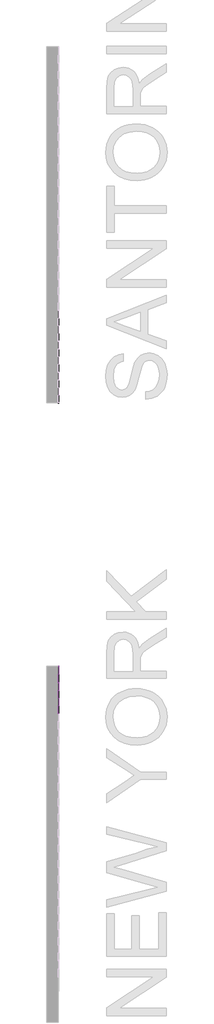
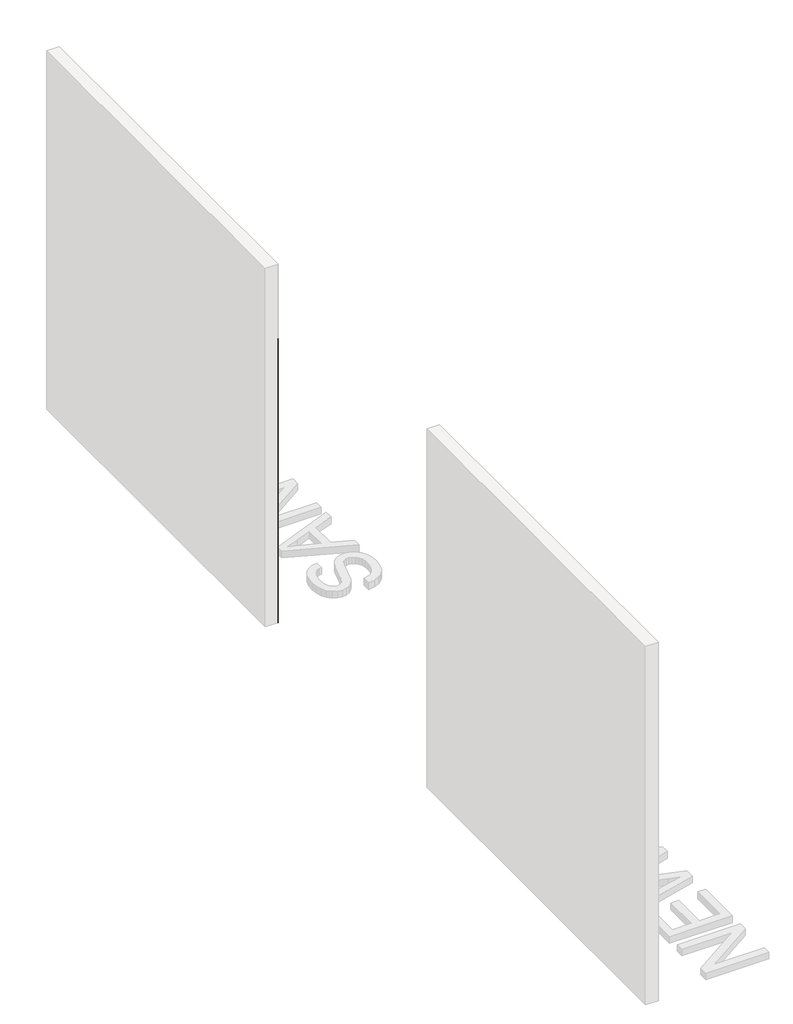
# One storey, part 27 of 45: 147 proxies.
"""IFC4 building model written with IfcOpenShell, lengths in millimetres."""

from ifc_helpers import new_model, si_unit, origin, place, context, project, spatial, transform, mapped, element, save
from components import generic_models_ab0f2c30, generic_models_8a1c671f

model = new_model("IFC4")

# Units and contexts
model_context = context("Model", 3, world=origin())
ifc_project = project(units=[si_unit("LENGTHUNIT", "METRE", prefix="MILLI")], contexts=[model_context])

# Site, building, storey
site = spatial("IfcSite", under=ifc_project)
building = spatial("IfcBuilding", under=site)
storey = spatial("IfcBuildingStorey", under=building, Name="PORTOBELLO - SHOWROOM", Elevation=0.0)

# Proxies
placement = place(None, origin())
generic_models_shape = generic_models_ab0f2c30(model_context)
element("IfcBuildingElementProxy", 1, Name="PBSHOP - HORIZONTES NEW YORK 6,5X23 : NEW YORK", ObjectType="PBSHOP - HORIZONTES NEW YORK 6,5X23 : NEW YORK", at=placement, inside=storey, context=model_context, shape_type="MappedRepresentation", body=[
    mapped(generic_models_shape, transform((69111.8826867, 8138.0036359, 862.5), x_axis=(0.0, 0.0, 1.0), y_axis=(0.0, -1.0, 0.0), z_axis=(1.0, 0.0, 0.0))),
])
element("IfcBuildingElementProxy", 2, Name="PBSHOP - HORIZONTES NEW YORK 6,5X23 : NEW YORK", ObjectType="PBSHOP - HORIZONTES NEW YORK 6,5X23 : NEW YORK", at=placement, inside=storey, context=model_context, shape_type="MappedRepresentation", body=[
    mapped(generic_models_shape, transform((69111.8826867, 8138.0036359, 931.5), x_axis=(0.0, 0.0, 1.0), y_axis=(0.0, -1.0, 0.0), z_axis=(1.0, 0.0, 0.0))),
])
element("IfcBuildingElementProxy", 3, Name="PBSHOP - HORIZONTES NEW YORK 6,5X23 : NEW YORK", ObjectType="PBSHOP - HORIZONTES NEW YORK 6,5X23 : NEW YORK", at=placement, inside=storey, context=model_context, shape_type="MappedRepresentation", body=[
    mapped(generic_models_shape, transform((69111.8826867, 8138.0036359, 1000.5), x_axis=(0.0, 0.0, 1.0), y_axis=(0.0, -1.0, 0.0), z_axis=(1.0, 0.0, 0.0))),
])
element("IfcBuildingElementProxy", 4, Name="PBSHOP - HORIZONTES NEW YORK 6,5X23 : NEW YORK", ObjectType="PBSHOP - HORIZONTES NEW YORK 6,5X23 : NEW YORK", at=placement, inside=storey, context=model_context, shape_type="MappedRepresentation", body=[
    mapped(generic_models_shape, transform((69111.8826867, 8138.0036359, 1069.5), x_axis=(0.0, 0.0, 1.0), y_axis=(0.0, -1.0, 0.0), z_axis=(1.0, 0.0, 0.0))),
])
element("IfcBuildingElementProxy", 5, Name="PBSHOP - HORIZONTES NEW YORK 6,5X23 : NEW YORK", ObjectType="PBSHOP - HORIZONTES NEW YORK 6,5X23 : NEW YORK", at=placement, inside=storey, context=model_context, shape_type="MappedRepresentation", body=[
    mapped(generic_models_shape, transform((69111.8826867, 8138.0036359, 1138.5), x_axis=(0.0, 0.0, 1.0), y_axis=(0.0, -1.0, 0.0), z_axis=(1.0, 0.0, 0.0))),
])
element("IfcBuildingElementProxy", 6, Name="PBSHOP - HORIZONTES NEW YORK 6,5X23 : NEW YORK", ObjectType="PBSHOP - HORIZONTES NEW YORK 6,5X23 : NEW YORK", at=placement, inside=storey, context=model_context, shape_type="MappedRepresentation", body=[
    mapped(generic_models_shape, transform((69111.8826867, 8138.0036359, 1207.5), x_axis=(0.0, 0.0, 1.0), y_axis=(0.0, -1.0, 0.0), z_axis=(1.0, 0.0, 0.0))),
])
element("IfcBuildingElementProxy", 7, Name="PBSHOP - HORIZONTES NEW YORK 6,5X23 : NEW YORK", ObjectType="PBSHOP - HORIZONTES NEW YORK 6,5X23 : NEW YORK", at=placement, inside=storey, context=model_context, shape_type="MappedRepresentation", body=[
    mapped(generic_models_shape, transform((69111.8826867, 8138.0036359, 1276.5), x_axis=(0.0, 0.0, 1.0), y_axis=(0.0, -1.0, 0.0), z_axis=(1.0, 0.0, 0.0))),
])
element("IfcBuildingElementProxy", 8, Name="PBSHOP - HORIZONTES NEW YORK 6,5X23 : NEW YORK", ObjectType="PBSHOP - HORIZONTES NEW YORK 6,5X23 : NEW YORK", at=placement, inside=storey, context=model_context, shape_type="MappedRepresentation", body=[
    mapped(generic_models_shape, transform((69111.8826867, 8138.0036359, 1345.5), x_axis=(0.0, 0.0, 1.0), y_axis=(0.0, -1.0, 0.0), z_axis=(1.0, 0.0, 0.0))),
])
element("IfcBuildingElementProxy", 9, Name="PBSHOP - HORIZONTES NEW YORK 6,5X23 : NEW YORK", ObjectType="PBSHOP - HORIZONTES NEW YORK 6,5X23 : NEW YORK", at=placement, inside=storey, context=model_context, shape_type="MappedRepresentation", body=[
    mapped(generic_models_shape, transform((69111.8826867, 8138.0036359, 1414.5), x_axis=(0.0, 0.0, 1.0), y_axis=(0.0, -1.0, 0.0), z_axis=(1.0, 0.0, 0.0))),
])
element("IfcBuildingElementProxy", 10, Name="PBSHOP - HORIZONTES NEW YORK 6,5X23 : NEW YORK", ObjectType="PBSHOP - HORIZONTES NEW YORK 6,5X23 : NEW YORK", at=placement, inside=storey, context=model_context, shape_type="MappedRepresentation", body=[
    mapped(generic_models_shape, transform((69111.8826867, 8138.0036359, 1483.5), x_axis=(0.0, 0.0, 1.0), y_axis=(0.0, -1.0, 0.0), z_axis=(1.0, 0.0, 0.0))),
])
element("IfcBuildingElementProxy", 11, Name="PBSHOP - HORIZONTES NEW YORK 6,5X23 : NEW YORK", ObjectType="PBSHOP - HORIZONTES NEW YORK 6,5X23 : NEW YORK", at=placement, inside=storey, context=model_context, shape_type="MappedRepresentation", body=[
    mapped(generic_models_shape, transform((69111.8826867, 8138.0036359, 1552.5), x_axis=(0.0, 0.0, 1.0), y_axis=(0.0, -1.0, 0.0), z_axis=(1.0, 0.0, 0.0))),
])
element("IfcBuildingElementProxy", 12, Name="PBSHOP - HORIZONTES NEW YORK 6,5X23 : NEW YORK", ObjectType="PBSHOP - HORIZONTES NEW YORK 6,5X23 : NEW YORK", at=placement, inside=storey, context=model_context, shape_type="MappedRepresentation", body=[
    mapped(generic_models_shape, transform((69111.8826867, 8138.0036359, 1621.5), x_axis=(0.0, 0.0, 1.0), y_axis=(0.0, -1.0, 0.0), z_axis=(1.0, 0.0, 0.0))),
])
element("IfcBuildingElementProxy", 13, Name="PBSHOP - HORIZONTES NEW YORK 6,5X23 : NEW YORK", ObjectType="PBSHOP - HORIZONTES NEW YORK 6,5X23 : NEW YORK", at=placement, inside=storey, context=model_context, shape_type="MappedRepresentation", body=[
    mapped(generic_models_shape, transform((69111.8826867, 8138.0036359, 1690.5), x_axis=(0.0, 0.0, 1.0), y_axis=(0.0, -1.0, 0.0), z_axis=(1.0, 0.0, 0.0))),
])
element("IfcBuildingElementProxy", 14, Name="PBSHOP - HORIZONTES NEW YORK 6,5X23 : NEW YORK", ObjectType="PBSHOP - HORIZONTES NEW YORK 6,5X23 : NEW YORK", at=placement, inside=storey, context=model_context, shape_type="MappedRepresentation", body=[
    mapped(generic_models_shape, transform((69111.8826867, 8138.0036359, 1759.5), x_axis=(0.0, 0.0, 1.0), y_axis=(0.0, -1.0, 0.0), z_axis=(1.0, 0.0, 0.0))),
])
element("IfcBuildingElementProxy", 15, Name="PBSHOP - HORIZONTES NEW YORK 6,5X23 : NEW YORK", ObjectType="PBSHOP - HORIZONTES NEW YORK 6,5X23 : NEW YORK", at=placement, inside=storey, context=model_context, shape_type="MappedRepresentation", body=[
    mapped(generic_models_shape, transform((69111.8826867, 8138.0036359, 1828.5), x_axis=(0.0, 0.0, 1.0), y_axis=(0.0, -1.0, 0.0), z_axis=(1.0, 0.0, 0.0))),
])
element("IfcBuildingElementProxy", 16, Name="PBSHOP - HORIZONTES NEW YORK 6,5X23 : NEW YORK", ObjectType="PBSHOP - HORIZONTES NEW YORK 6,5X23 : NEW YORK", at=placement, inside=storey, context=model_context, shape_type="MappedRepresentation", body=[
    mapped(generic_models_shape, transform((69111.8826867, 8138.0036359, 1897.5), x_axis=(0.0, 0.0, 1.0), y_axis=(0.0, -1.0, 0.0), z_axis=(1.0, 0.0, 0.0))),
])
element("IfcBuildingElementProxy", 17, Name="PBSHOP - HORIZONTES NEW YORK 6,5X23 : NEW YORK", ObjectType="PBSHOP - HORIZONTES NEW YORK 6,5X23 : NEW YORK", at=placement, inside=storey, context=model_context, shape_type="MappedRepresentation", body=[
    mapped(generic_models_shape, transform((69111.8826867, 8138.0036359, 1966.5), x_axis=(0.0, 0.0, 1.0), y_axis=(0.0, -1.0, 0.0), z_axis=(1.0, 0.0, 0.0))),
])
element("IfcBuildingElementProxy", 18, Name="PBSHOP - HORIZONTES NEW YORK 6,5X23 : NEW YORK", ObjectType="PBSHOP - HORIZONTES NEW YORK 6,5X23 : NEW YORK", at=placement, inside=storey, context=model_context, shape_type="MappedRepresentation", body=[
    mapped(generic_models_shape, transform((69111.8826867, 8138.0036359, 2035.5), x_axis=(0.0, 0.0, 1.0), y_axis=(0.0, -1.0, 0.0), z_axis=(1.0, 0.0, 0.0))),
])
element("IfcBuildingElementProxy", 19, Name="PBSHOP - HORIZONTES NEW YORK 6,5X23 : NEW YORK", ObjectType="PBSHOP - HORIZONTES NEW YORK 6,5X23 : NEW YORK", at=placement, inside=storey, context=model_context, shape_type="MappedRepresentation", body=[
    mapped(generic_models_shape, transform((69111.8826867, 8138.0036359, 2104.5), x_axis=(0.0, 0.0, 1.0), y_axis=(0.0, -1.0, 0.0), z_axis=(1.0, 0.0, 0.0))),
])
element("IfcBuildingElementProxy", 20, Name="PBSHOP - HORIZONTES NEW YORK 6,5X23 : NEW YORK", ObjectType="PBSHOP - HORIZONTES NEW YORK 6,5X23 : NEW YORK", at=placement, inside=storey, context=model_context, shape_type="MappedRepresentation", body=[
    mapped(generic_models_shape, transform((69111.8826867, 8138.0036359, 2173.5), x_axis=(0.0, 0.0, 1.0), y_axis=(0.0, -1.0, 0.0), z_axis=(1.0, 0.0, 0.0))),
])
element("IfcBuildingElementProxy", 21, Name="PBSHOP - HORIZONTES NEW YORK 6,5X23 : NEW YORK", ObjectType="PBSHOP - HORIZONTES NEW YORK 6,5X23 : NEW YORK", at=placement, inside=storey, context=model_context, shape_type="MappedRepresentation", body=[
    mapped(generic_models_shape, transform((69111.8826867, 8138.0036359, 2242.5), x_axis=(0.0, 0.0, 1.0), y_axis=(0.0, -1.0, 0.0), z_axis=(1.0, 0.0, 0.0))),
])
element("IfcBuildingElementProxy", 22, Name="PBSHOP - HORIZONTES NEW YORK 6,5X23 : NEW YORK", ObjectType="PBSHOP - HORIZONTES NEW YORK 6,5X23 : NEW YORK", at=placement, inside=storey, context=model_context, shape_type="MappedRepresentation", body=[
    mapped(generic_models_shape, transform((69111.8826867, 8138.0036359, 2311.5), x_axis=(0.0, 0.0, 1.0), y_axis=(0.0, -1.0, 0.0), z_axis=(1.0, 0.0, 0.0))),
])
element("IfcBuildingElementProxy", 23, Name="PBSHOP - HORIZONTES NEW YORK 6,5X23 : NEW YORK", ObjectType="PBSHOP - HORIZONTES NEW YORK 6,5X23 : NEW YORK", at=placement, inside=storey, context=model_context, shape_type="MappedRepresentation", body=[
    mapped(generic_models_shape, transform((69111.8826867, 8138.0036359, 2380.5), x_axis=(0.0, 0.0, 1.0), y_axis=(0.0, -1.0, 0.0), z_axis=(1.0, 0.0, 0.0))),
])
element("IfcBuildingElementProxy", 24, Name="PBSHOP - HORIZONTES NEW YORK 6,5X23 : NEW YORK", ObjectType="PBSHOP - HORIZONTES NEW YORK 6,5X23 : NEW YORK", at=placement, inside=storey, context=model_context, shape_type="MappedRepresentation", body=[
    mapped(generic_models_shape, transform((69111.8826867, 8138.0036359, 2449.5), x_axis=(0.0, 0.0, 1.0), y_axis=(0.0, -1.0, 0.0), z_axis=(1.0, 0.0, 0.0))),
])
element("IfcBuildingElementProxy", 25, Name="PBSHOP - HORIZONTES NEW YORK 6,5X23 : NEW YORK", ObjectType="PBSHOP - HORIZONTES NEW YORK 6,5X23 : NEW YORK", at=placement, inside=storey, context=model_context, shape_type="MappedRepresentation", body=[
    mapped(generic_models_shape, transform((69111.8826867, 8138.0036359, 2518.5), x_axis=(0.0, 0.0, 1.0), y_axis=(0.0, -1.0, 0.0), z_axis=(1.0, 0.0, 0.0))),
])
element("IfcBuildingElementProxy", 26, Name="PBSHOP - HORIZONTES NEW YORK 6,5X23 : NEW YORK", ObjectType="PBSHOP - HORIZONTES NEW YORK 6,5X23 : NEW YORK", at=placement, inside=storey, context=model_context, shape_type="MappedRepresentation", body=[
    mapped(generic_models_shape, transform((69111.8826867, 8138.0036359, 2587.5), x_axis=(0.0, 0.0, 1.0), y_axis=(0.0, -1.0, 0.0), z_axis=(1.0, 0.0, 0.0))),
])
element("IfcBuildingElementProxy", 27, Name="PBSHOP - HORIZONTES NEW YORK 6,5X23 : NEW YORK", ObjectType="PBSHOP - HORIZONTES NEW YORK 6,5X23 : NEW YORK", at=placement, inside=storey, context=model_context, shape_type="MappedRepresentation", body=[
    mapped(generic_models_shape, transform((69111.8826867, 8138.0036359, 2656.5), x_axis=(0.0, 0.0, 1.0), y_axis=(0.0, -1.0, 0.0), z_axis=(1.0, 0.0, 0.0))),
])
element("IfcBuildingElementProxy", 28, Name="PBSHOP - HORIZONTES SANTORINI 6,5X23 : SANTORINI", ObjectType="PBSHOP - HORIZONTES SANTORINI 6,5X23 : SANTORINI", at=placement, inside=storey, context=model_context, shape_type="MappedRepresentation", body=[
    mapped(generic_models_shape, transform((69111.8826867, 10492.0312463, 34.5), x_axis=(0.0, 0.0, 1.0), y_axis=(0.0, -1.0, 0.0), z_axis=(1.0, 0.0, 0.0))),
])
element("IfcBuildingElementProxy", 29, Name="PBSHOP - HORIZONTES SANTORINI 6,5X23 : SANTORINI", ObjectType="PBSHOP - HORIZONTES SANTORINI 6,5X23 : SANTORINI", at=placement, inside=storey, context=model_context, shape_type="MappedRepresentation", body=[
    mapped(generic_models_shape, transform((69111.8826867, 10726.0312463, 34.5), x_axis=(0.0, 0.0, 1.0), y_axis=(0.0, -1.0, 0.0), z_axis=(1.0, 0.0, 0.0))),
])
element("IfcBuildingElementProxy", 30, Name="PBSHOP - HORIZONTES SANTORINI 6,5X23 : SANTORINI", ObjectType="PBSHOP - HORIZONTES SANTORINI 6,5X23 : SANTORINI", at=placement, inside=storey, context=model_context, shape_type="MappedRepresentation", body=[
    mapped(generic_models_shape, transform((69111.8826867, 10960.0312463, 34.5), x_axis=(0.0, 0.0, 1.0), y_axis=(0.0, -1.0, 0.0), z_axis=(1.0, 0.0, 0.0))),
])
element("IfcBuildingElementProxy", 31, Name="PBSHOP - HORIZONTES SANTORINI 6,5X23 : SANTORINI", ObjectType="PBSHOP - HORIZONTES SANTORINI 6,5X23 : SANTORINI", at=placement, inside=storey, context=model_context, shape_type="MappedRepresentation", body=[
    mapped(generic_models_shape, transform((69111.8826867, 10492.0312463, 103.5), x_axis=(0.0, 0.0, 1.0), y_axis=(0.0, -1.0, 0.0), z_axis=(1.0, 0.0, 0.0))),
])
element("IfcBuildingElementProxy", 32, Name="PBSHOP - HORIZONTES SANTORINI 6,5X23 : SANTORINI", ObjectType="PBSHOP - HORIZONTES SANTORINI 6,5X23 : SANTORINI", at=placement, inside=storey, context=model_context, shape_type="MappedRepresentation", body=[
    mapped(generic_models_shape, transform((69111.8826867, 10726.0312463, 103.5), x_axis=(0.0, 0.0, 1.0), y_axis=(0.0, -1.0, 0.0), z_axis=(1.0, 0.0, 0.0))),
])
element("IfcBuildingElementProxy", 33, Name="PBSHOP - HORIZONTES SANTORINI 6,5X23 : SANTORINI", ObjectType="PBSHOP - HORIZONTES SANTORINI 6,5X23 : SANTORINI", at=placement, inside=storey, context=model_context, shape_type="MappedRepresentation", body=[
    mapped(generic_models_shape, transform((69111.8826867, 10960.0312463, 103.5), x_axis=(0.0, 0.0, 1.0), y_axis=(0.0, -1.0, 0.0), z_axis=(1.0, 0.0, 0.0))),
])
element("IfcBuildingElementProxy", 34, Name="PBSHOP - HORIZONTES SANTORINI 6,5X23 : SANTORINI", ObjectType="PBSHOP - HORIZONTES SANTORINI 6,5X23 : SANTORINI", at=placement, inside=storey, context=model_context, shape_type="MappedRepresentation", body=[
    mapped(generic_models_shape, transform((69111.8826867, 10492.0312463, 172.5), x_axis=(0.0, 0.0, 1.0), y_axis=(0.0, -1.0, 0.0), z_axis=(1.0, 0.0, 0.0))),
])
element("IfcBuildingElementProxy", 35, Name="PBSHOP - HORIZONTES SANTORINI 6,5X23 : SANTORINI", ObjectType="PBSHOP - HORIZONTES SANTORINI 6,5X23 : SANTORINI", at=placement, inside=storey, context=model_context, shape_type="MappedRepresentation", body=[
    mapped(generic_models_shape, transform((69111.8826867, 10726.0312463, 172.5), x_axis=(0.0, 0.0, 1.0), y_axis=(0.0, -1.0, 0.0), z_axis=(1.0, 0.0, 0.0))),
])
element("IfcBuildingElementProxy", 36, Name="PBSHOP - HORIZONTES SANTORINI 6,5X23 : SANTORINI", ObjectType="PBSHOP - HORIZONTES SANTORINI 6,5X23 : SANTORINI", at=placement, inside=storey, context=model_context, shape_type="MappedRepresentation", body=[
    mapped(generic_models_shape, transform((69111.8826867, 10960.0312463, 172.5), x_axis=(0.0, 0.0, 1.0), y_axis=(0.0, -1.0, 0.0), z_axis=(1.0, 0.0, 0.0))),
])
element("IfcBuildingElementProxy", 37, Name="PBSHOP - HORIZONTES SANTORINI 6,5X23 : SANTORINI", ObjectType="PBSHOP - HORIZONTES SANTORINI 6,5X23 : SANTORINI", at=placement, inside=storey, context=model_context, shape_type="MappedRepresentation", body=[
    mapped(generic_models_shape, transform((69111.8826867, 10492.0312463, 241.5), x_axis=(0.0, 0.0, 1.0), y_axis=(0.0, -1.0, 0.0), z_axis=(1.0, 0.0, 0.0))),
])
element("IfcBuildingElementProxy", 38, Name="PBSHOP - HORIZONTES SANTORINI 6,5X23 : SANTORINI", ObjectType="PBSHOP - HORIZONTES SANTORINI 6,5X23 : SANTORINI", at=placement, inside=storey, context=model_context, shape_type="MappedRepresentation", body=[
    mapped(generic_models_shape, transform((69111.8826867, 10726.0312463, 241.5), x_axis=(0.0, 0.0, 1.0), y_axis=(0.0, -1.0, 0.0), z_axis=(1.0, 0.0, 0.0))),
])
element("IfcBuildingElementProxy", 39, Name="PBSHOP - HORIZONTES SANTORINI 6,5X23 : SANTORINI", ObjectType="PBSHOP - HORIZONTES SANTORINI 6,5X23 : SANTORINI", at=placement, inside=storey, context=model_context, shape_type="MappedRepresentation", body=[
    mapped(generic_models_shape, transform((69111.8826867, 10960.0312463, 241.5), x_axis=(0.0, 0.0, 1.0), y_axis=(0.0, -1.0, 0.0), z_axis=(1.0, 0.0, 0.0))),
])
element("IfcBuildingElementProxy", 40, Name="PBSHOP - HORIZONTES SANTORINI 6,5X23 : SANTORINI", ObjectType="PBSHOP - HORIZONTES SANTORINI 6,5X23 : SANTORINI", at=placement, inside=storey, context=model_context, shape_type="MappedRepresentation", body=[
    mapped(generic_models_shape, transform((69111.8826867, 10492.0312463, 310.5), x_axis=(0.0, 0.0, 1.0), y_axis=(0.0, -1.0, 0.0), z_axis=(1.0, 0.0, 0.0))),
])
element("IfcBuildingElementProxy", 41, Name="PBSHOP - HORIZONTES SANTORINI 6,5X23 : SANTORINI", ObjectType="PBSHOP - HORIZONTES SANTORINI 6,5X23 : SANTORINI", at=placement, inside=storey, context=model_context, shape_type="MappedRepresentation", body=[
    mapped(generic_models_shape, transform((69111.8826867, 10726.0312463, 310.5), x_axis=(0.0, 0.0, 1.0), y_axis=(0.0, -1.0, 0.0), z_axis=(1.0, 0.0, 0.0))),
])
element("IfcBuildingElementProxy", 42, Name="PBSHOP - HORIZONTES SANTORINI 6,5X23 : SANTORINI", ObjectType="PBSHOP - HORIZONTES SANTORINI 6,5X23 : SANTORINI", at=placement, inside=storey, context=model_context, shape_type="MappedRepresentation", body=[
    mapped(generic_models_shape, transform((69111.8826867, 10960.0312463, 310.5), x_axis=(0.0, 0.0, 1.0), y_axis=(0.0, -1.0, 0.0), z_axis=(1.0, 0.0, 0.0))),
])
element("IfcBuildingElementProxy", 43, Name="PBSHOP - HORIZONTES SANTORINI 6,5X23 : SANTORINI", ObjectType="PBSHOP - HORIZONTES SANTORINI 6,5X23 : SANTORINI", at=placement, inside=storey, context=model_context, shape_type="MappedRepresentation", body=[
    mapped(generic_models_shape, transform((69111.8826867, 10492.0312463, 379.5), x_axis=(0.0, 0.0, 1.0), y_axis=(0.0, -1.0, 0.0), z_axis=(1.0, 0.0, 0.0))),
])
element("IfcBuildingElementProxy", 44, Name="PBSHOP - HORIZONTES SANTORINI 6,5X23 : SANTORINI", ObjectType="PBSHOP - HORIZONTES SANTORINI 6,5X23 : SANTORINI", at=placement, inside=storey, context=model_context, shape_type="MappedRepresentation", body=[
    mapped(generic_models_shape, transform((69111.8826867, 10726.0312463, 379.5), x_axis=(0.0, 0.0, 1.0), y_axis=(0.0, -1.0, 0.0), z_axis=(1.0, 0.0, 0.0))),
])
element("IfcBuildingElementProxy", 45, Name="PBSHOP - HORIZONTES SANTORINI 6,5X23 : SANTORINI", ObjectType="PBSHOP - HORIZONTES SANTORINI 6,5X23 : SANTORINI", at=placement, inside=storey, context=model_context, shape_type="MappedRepresentation", body=[
    mapped(generic_models_shape, transform((69111.8826867, 10960.0312463, 379.5), x_axis=(0.0, 0.0, 1.0), y_axis=(0.0, -1.0, 0.0), z_axis=(1.0, 0.0, 0.0))),
])
element("IfcBuildingElementProxy", 46, Name="PBSHOP - HORIZONTES SANTORINI 6,5X23 : SANTORINI", ObjectType="PBSHOP - HORIZONTES SANTORINI 6,5X23 : SANTORINI", at=placement, inside=storey, context=model_context, shape_type="MappedRepresentation", body=[
    mapped(generic_models_shape, transform((69111.8826867, 10492.0312463, 448.5), x_axis=(0.0, 0.0, 1.0), y_axis=(0.0, -1.0, 0.0), z_axis=(1.0, 0.0, 0.0))),
])
element("IfcBuildingElementProxy", 47, Name="PBSHOP - HORIZONTES SANTORINI 6,5X23 : SANTORINI", ObjectType="PBSHOP - HORIZONTES SANTORINI 6,5X23 : SANTORINI", at=placement, inside=storey, context=model_context, shape_type="MappedRepresentation", body=[
    mapped(generic_models_shape, transform((69111.8826867, 10726.0312463, 448.5), x_axis=(0.0, 0.0, 1.0), y_axis=(0.0, -1.0, 0.0), z_axis=(1.0, 0.0, 0.0))),
])
element("IfcBuildingElementProxy", 48, Name="PBSHOP - HORIZONTES SANTORINI 6,5X23 : SANTORINI", ObjectType="PBSHOP - HORIZONTES SANTORINI 6,5X23 : SANTORINI", at=placement, inside=storey, context=model_context, shape_type="MappedRepresentation", body=[
    mapped(generic_models_shape, transform((69111.8826867, 10960.0312463, 448.5), x_axis=(0.0, 0.0, 1.0), y_axis=(0.0, -1.0, 0.0), z_axis=(1.0, 0.0, 0.0))),
])
element("IfcBuildingElementProxy", 49, Name="PBSHOP - HORIZONTES SANTORINI 6,5X23 : SANTORINI", ObjectType="PBSHOP - HORIZONTES SANTORINI 6,5X23 : SANTORINI", at=placement, inside=storey, context=model_context, shape_type="MappedRepresentation", body=[
    mapped(generic_models_shape, transform((69111.8826867, 10492.0312463, 517.5), x_axis=(0.0, 0.0, 1.0), y_axis=(0.0, -1.0, 0.0), z_axis=(1.0, 0.0, 0.0))),
])
element("IfcBuildingElementProxy", 50, Name="PBSHOP - HORIZONTES SANTORINI 6,5X23 : SANTORINI", ObjectType="PBSHOP - HORIZONTES SANTORINI 6,5X23 : SANTORINI", at=placement, inside=storey, context=model_context, shape_type="MappedRepresentation", body=[
    mapped(generic_models_shape, transform((69111.8826867, 10726.0312463, 517.5), x_axis=(0.0, 0.0, 1.0), y_axis=(0.0, -1.0, 0.0), z_axis=(1.0, 0.0, 0.0))),
])
element("IfcBuildingElementProxy", 51, Name="PBSHOP - HORIZONTES SANTORINI 6,5X23 : SANTORINI", ObjectType="PBSHOP - HORIZONTES SANTORINI 6,5X23 : SANTORINI", at=placement, inside=storey, context=model_context, shape_type="MappedRepresentation", body=[
    mapped(generic_models_shape, transform((69111.8826867, 10960.0312463, 517.5), x_axis=(0.0, 0.0, 1.0), y_axis=(0.0, -1.0, 0.0), z_axis=(1.0, 0.0, 0.0))),
])
element("IfcBuildingElementProxy", 52, Name="PBSHOP - HORIZONTES SANTORINI 6,5X23 : SANTORINI", ObjectType="PBSHOP - HORIZONTES SANTORINI 6,5X23 : SANTORINI", at=placement, inside=storey, context=model_context, shape_type="MappedRepresentation", body=[
    mapped(generic_models_shape, transform((69111.8826867, 10492.0312463, 586.5), x_axis=(0.0, 0.0, 1.0), y_axis=(0.0, -1.0, 0.0), z_axis=(1.0, 0.0, 0.0))),
])
element("IfcBuildingElementProxy", 53, Name="PBSHOP - HORIZONTES SANTORINI 6,5X23 : SANTORINI", ObjectType="PBSHOP - HORIZONTES SANTORINI 6,5X23 : SANTORINI", at=placement, inside=storey, context=model_context, shape_type="MappedRepresentation", body=[
    mapped(generic_models_shape, transform((69111.8826867, 10726.0312463, 586.5), x_axis=(0.0, 0.0, 1.0), y_axis=(0.0, -1.0, 0.0), z_axis=(1.0, 0.0, 0.0))),
])
element("IfcBuildingElementProxy", 54, Name="PBSHOP - HORIZONTES SANTORINI 6,5X23 : SANTORINI", ObjectType="PBSHOP - HORIZONTES SANTORINI 6,5X23 : SANTORINI", at=placement, inside=storey, context=model_context, shape_type="MappedRepresentation", body=[
    mapped(generic_models_shape, transform((69111.8826867, 10960.0312463, 586.5), x_axis=(0.0, 0.0, 1.0), y_axis=(0.0, -1.0, 0.0), z_axis=(1.0, 0.0, 0.0))),
])
element("IfcBuildingElementProxy", 55, Name="PBSHOP - HORIZONTES SANTORINI 6,5X23 : SANTORINI", ObjectType="PBSHOP - HORIZONTES SANTORINI 6,5X23 : SANTORINI", at=placement, inside=storey, context=model_context, shape_type="MappedRepresentation", body=[
    mapped(generic_models_shape, transform((69111.8826867, 10492.0312463, 655.5), x_axis=(0.0, 0.0, 1.0), y_axis=(0.0, -1.0, 0.0), z_axis=(1.0, 0.0, 0.0))),
])
element("IfcBuildingElementProxy", 56, Name="PBSHOP - HORIZONTES SANTORINI 6,5X23 : SANTORINI", ObjectType="PBSHOP - HORIZONTES SANTORINI 6,5X23 : SANTORINI", at=placement, inside=storey, context=model_context, shape_type="MappedRepresentation", body=[
    mapped(generic_models_shape, transform((69111.8826867, 10726.0312463, 655.5), x_axis=(0.0, 0.0, 1.0), y_axis=(0.0, -1.0, 0.0), z_axis=(1.0, 0.0, 0.0))),
])
element("IfcBuildingElementProxy", 57, Name="PBSHOP - HORIZONTES SANTORINI 6,5X23 : SANTORINI", ObjectType="PBSHOP - HORIZONTES SANTORINI 6,5X23 : SANTORINI", at=placement, inside=storey, context=model_context, shape_type="MappedRepresentation", body=[
    mapped(generic_models_shape, transform((69111.8826867, 10960.0312463, 655.5), x_axis=(0.0, 0.0, 1.0), y_axis=(0.0, -1.0, 0.0), z_axis=(1.0, 0.0, 0.0))),
])
element("IfcBuildingElementProxy", 58, Name="PBSHOP - HORIZONTES SANTORINI 6,5X23 : SANTORINI", ObjectType="PBSHOP - HORIZONTES SANTORINI 6,5X23 : SANTORINI", at=placement, inside=storey, context=model_context, shape_type="MappedRepresentation", body=[
    mapped(generic_models_shape, transform((69111.8826867, 10492.0312463, 724.5), x_axis=(0.0, 0.0, 1.0), y_axis=(0.0, -1.0, 0.0), z_axis=(1.0, 0.0, 0.0))),
])
element("IfcBuildingElementProxy", 59, Name="PBSHOP - HORIZONTES SANTORINI 6,5X23 : SANTORINI", ObjectType="PBSHOP - HORIZONTES SANTORINI 6,5X23 : SANTORINI", at=placement, inside=storey, context=model_context, shape_type="MappedRepresentation", body=[
    mapped(generic_models_shape, transform((69111.8826867, 10726.0312463, 724.5), x_axis=(0.0, 0.0, 1.0), y_axis=(0.0, -1.0, 0.0), z_axis=(1.0, 0.0, 0.0))),
])
element("IfcBuildingElementProxy", 60, Name="PBSHOP - HORIZONTES SANTORINI 6,5X23 : SANTORINI", ObjectType="PBSHOP - HORIZONTES SANTORINI 6,5X23 : SANTORINI", at=placement, inside=storey, context=model_context, shape_type="MappedRepresentation", body=[
    mapped(generic_models_shape, transform((69111.8826867, 10960.0312463, 724.5), x_axis=(0.0, 0.0, 1.0), y_axis=(0.0, -1.0, 0.0), z_axis=(1.0, 0.0, 0.0))),
])
element("IfcBuildingElementProxy", 61, Name="PBSHOP - HORIZONTES SANTORINI 6,5X23 : SANTORINI", ObjectType="PBSHOP - HORIZONTES SANTORINI 6,5X23 : SANTORINI", at=placement, inside=storey, context=model_context, shape_type="MappedRepresentation", body=[
    mapped(generic_models_shape, transform((69111.8826867, 10492.0312463, 793.5), x_axis=(0.0, 0.0, 1.0), y_axis=(0.0, -1.0, 0.0), z_axis=(1.0, 0.0, 0.0))),
])
element("IfcBuildingElementProxy", 62, Name="PBSHOP - HORIZONTES SANTORINI 6,5X23 : SANTORINI", ObjectType="PBSHOP - HORIZONTES SANTORINI 6,5X23 : SANTORINI", at=placement, inside=storey, context=model_context, shape_type="MappedRepresentation", body=[
    mapped(generic_models_shape, transform((69111.8826867, 10726.0312463, 793.5), x_axis=(0.0, 0.0, 1.0), y_axis=(0.0, -1.0, 0.0), z_axis=(1.0, 0.0, 0.0))),
])
element("IfcBuildingElementProxy", 63, Name="PBSHOP - HORIZONTES SANTORINI 6,5X23 : SANTORINI", ObjectType="PBSHOP - HORIZONTES SANTORINI 6,5X23 : SANTORINI", at=placement, inside=storey, context=model_context, shape_type="MappedRepresentation", body=[
    mapped(generic_models_shape, transform((69111.8826867, 10960.0312463, 793.5), x_axis=(0.0, 0.0, 1.0), y_axis=(0.0, -1.0, 0.0), z_axis=(1.0, 0.0, 0.0))),
])
element("IfcBuildingElementProxy", 64, Name="PBSHOP - HORIZONTES SANTORINI 6,5X23 : SANTORINI", ObjectType="PBSHOP - HORIZONTES SANTORINI 6,5X23 : SANTORINI", at=placement, inside=storey, context=model_context, shape_type="MappedRepresentation", body=[
    mapped(generic_models_shape, transform((69111.8826867, 10492.0312463, 862.5), x_axis=(0.0, 0.0, 1.0), y_axis=(0.0, -1.0, 0.0), z_axis=(1.0, 0.0, 0.0))),
])
element("IfcBuildingElementProxy", 65, Name="PBSHOP - HORIZONTES SANTORINI 6,5X23 : SANTORINI", ObjectType="PBSHOP - HORIZONTES SANTORINI 6,5X23 : SANTORINI", at=placement, inside=storey, context=model_context, shape_type="MappedRepresentation", body=[
    mapped(generic_models_shape, transform((69111.8826867, 10726.0312463, 862.5), x_axis=(0.0, 0.0, 1.0), y_axis=(0.0, -1.0, 0.0), z_axis=(1.0, 0.0, 0.0))),
])
element("IfcBuildingElementProxy", 66, Name="PBSHOP - HORIZONTES SANTORINI 6,5X23 : SANTORINI", ObjectType="PBSHOP - HORIZONTES SANTORINI 6,5X23 : SANTORINI", at=placement, inside=storey, context=model_context, shape_type="MappedRepresentation", body=[
    mapped(generic_models_shape, transform((69111.8826867, 10960.0312463, 862.5), x_axis=(0.0, 0.0, 1.0), y_axis=(0.0, -1.0, 0.0), z_axis=(1.0, 0.0, 0.0))),
])
element("IfcBuildingElementProxy", 67, Name="PBSHOP - HORIZONTES SANTORINI 6,5X23 : SANTORINI", ObjectType="PBSHOP - HORIZONTES SANTORINI 6,5X23 : SANTORINI", at=placement, inside=storey, context=model_context, shape_type="MappedRepresentation", body=[
    mapped(generic_models_shape, transform((69111.8826867, 10492.0312463, 931.5), x_axis=(0.0, 0.0, 1.0), y_axis=(0.0, -1.0, 0.0), z_axis=(1.0, 0.0, 0.0))),
])
element("IfcBuildingElementProxy", 68, Name="PBSHOP - HORIZONTES SANTORINI 6,5X23 : SANTORINI", ObjectType="PBSHOP - HORIZONTES SANTORINI 6,5X23 : SANTORINI", at=placement, inside=storey, context=model_context, shape_type="MappedRepresentation", body=[
    mapped(generic_models_shape, transform((69111.8826867, 10726.0312463, 931.5), x_axis=(0.0, 0.0, 1.0), y_axis=(0.0, -1.0, 0.0), z_axis=(1.0, 0.0, 0.0))),
])
element("IfcBuildingElementProxy", 69, Name="PBSHOP - HORIZONTES SANTORINI 6,5X23 : SANTORINI", ObjectType="PBSHOP - HORIZONTES SANTORINI 6,5X23 : SANTORINI", at=placement, inside=storey, context=model_context, shape_type="MappedRepresentation", body=[
    mapped(generic_models_shape, transform((69111.8826867, 10960.0312463, 931.5), x_axis=(0.0, 0.0, 1.0), y_axis=(0.0, -1.0, 0.0), z_axis=(1.0, 0.0, 0.0))),
])
element("IfcBuildingElementProxy", 70, Name="PBSHOP - HORIZONTES SANTORINI 6,5X23 : SANTORINI", ObjectType="PBSHOP - HORIZONTES SANTORINI 6,5X23 : SANTORINI", at=placement, inside=storey, context=model_context, shape_type="MappedRepresentation", body=[
    mapped(generic_models_shape, transform((69111.8826867, 10492.0312463, 1000.5), x_axis=(0.0, 0.0, 1.0), y_axis=(0.0, -1.0, 0.0), z_axis=(1.0, 0.0, 0.0))),
])
element("IfcBuildingElementProxy", 71, Name="PBSHOP - HORIZONTES SANTORINI 6,5X23 : SANTORINI", ObjectType="PBSHOP - HORIZONTES SANTORINI 6,5X23 : SANTORINI", at=placement, inside=storey, context=model_context, shape_type="MappedRepresentation", body=[
    mapped(generic_models_shape, transform((69111.8826867, 10726.0312463, 1000.5), x_axis=(0.0, 0.0, 1.0), y_axis=(0.0, -1.0, 0.0), z_axis=(1.0, 0.0, 0.0))),
])
element("IfcBuildingElementProxy", 72, Name="PBSHOP - HORIZONTES SANTORINI 6,5X23 : SANTORINI", ObjectType="PBSHOP - HORIZONTES SANTORINI 6,5X23 : SANTORINI", at=placement, inside=storey, context=model_context, shape_type="MappedRepresentation", body=[
    mapped(generic_models_shape, transform((69111.8826867, 10960.0312463, 1000.5), x_axis=(0.0, 0.0, 1.0), y_axis=(0.0, -1.0, 0.0), z_axis=(1.0, 0.0, 0.0))),
])
element("IfcBuildingElementProxy", 73, Name="PBSHOP - HORIZONTES SANTORINI 6,5X23 : SANTORINI", ObjectType="PBSHOP - HORIZONTES SANTORINI 6,5X23 : SANTORINI", at=placement, inside=storey, context=model_context, shape_type="MappedRepresentation", body=[
    mapped(generic_models_shape, transform((69111.8826867, 10492.0312463, 1069.5), x_axis=(0.0, 0.0, 1.0), y_axis=(0.0, -1.0, 0.0), z_axis=(1.0, 0.0, 0.0))),
])
element("IfcBuildingElementProxy", 74, Name="PBSHOP - HORIZONTES SANTORINI 6,5X23 : SANTORINI", ObjectType="PBSHOP - HORIZONTES SANTORINI 6,5X23 : SANTORINI", at=placement, inside=storey, context=model_context, shape_type="MappedRepresentation", body=[
    mapped(generic_models_shape, transform((69111.8826867, 10726.0312463, 1069.5), x_axis=(0.0, 0.0, 1.0), y_axis=(0.0, -1.0, 0.0), z_axis=(1.0, 0.0, 0.0))),
])
element("IfcBuildingElementProxy", 75, Name="PBSHOP - HORIZONTES SANTORINI 6,5X23 : SANTORINI", ObjectType="PBSHOP - HORIZONTES SANTORINI 6,5X23 : SANTORINI", at=placement, inside=storey, context=model_context, shape_type="MappedRepresentation", body=[
    mapped(generic_models_shape, transform((69111.8826867, 10960.0312463, 1069.5), x_axis=(0.0, 0.0, 1.0), y_axis=(0.0, -1.0, 0.0), z_axis=(1.0, 0.0, 0.0))),
])
element("IfcBuildingElementProxy", 76, Name="PBSHOP - HORIZONTES SANTORINI 6,5X23 : SANTORINI", ObjectType="PBSHOP - HORIZONTES SANTORINI 6,5X23 : SANTORINI", at=placement, inside=storey, context=model_context, shape_type="MappedRepresentation", body=[
    mapped(generic_models_shape, transform((69111.8826867, 10492.0312463, 1138.5), x_axis=(0.0, 0.0, 1.0), y_axis=(0.0, -1.0, 0.0), z_axis=(1.0, 0.0, 0.0))),
])
element("IfcBuildingElementProxy", 77, Name="PBSHOP - HORIZONTES SANTORINI 6,5X23 : SANTORINI", ObjectType="PBSHOP - HORIZONTES SANTORINI 6,5X23 : SANTORINI", at=placement, inside=storey, context=model_context, shape_type="MappedRepresentation", body=[
    mapped(generic_models_shape, transform((69111.8826867, 10726.0312463, 1138.5), x_axis=(0.0, 0.0, 1.0), y_axis=(0.0, -1.0, 0.0), z_axis=(1.0, 0.0, 0.0))),
])
element("IfcBuildingElementProxy", 78, Name="PBSHOP - HORIZONTES SANTORINI 6,5X23 : SANTORINI", ObjectType="PBSHOP - HORIZONTES SANTORINI 6,5X23 : SANTORINI", at=placement, inside=storey, context=model_context, shape_type="MappedRepresentation", body=[
    mapped(generic_models_shape, transform((69111.8826867, 10960.0312463, 1138.5), x_axis=(0.0, 0.0, 1.0), y_axis=(0.0, -1.0, 0.0), z_axis=(1.0, 0.0, 0.0))),
])
element("IfcBuildingElementProxy", 79, Name="PBSHOP - HORIZONTES SANTORINI 6,5X23 : SANTORINI", ObjectType="PBSHOP - HORIZONTES SANTORINI 6,5X23 : SANTORINI", at=placement, inside=storey, context=model_context, shape_type="MappedRepresentation", body=[
    mapped(generic_models_shape, transform((69111.8826867, 10492.0312463, 1207.5), x_axis=(0.0, 0.0, 1.0), y_axis=(0.0, -1.0, 0.0), z_axis=(1.0, 0.0, 0.0))),
])
element("IfcBuildingElementProxy", 80, Name="PBSHOP - HORIZONTES SANTORINI 6,5X23 : SANTORINI", ObjectType="PBSHOP - HORIZONTES SANTORINI 6,5X23 : SANTORINI", at=placement, inside=storey, context=model_context, shape_type="MappedRepresentation", body=[
    mapped(generic_models_shape, transform((69111.8826867, 10726.0312463, 1207.5), x_axis=(0.0, 0.0, 1.0), y_axis=(0.0, -1.0, 0.0), z_axis=(1.0, 0.0, 0.0))),
])
element("IfcBuildingElementProxy", 81, Name="PBSHOP - HORIZONTES SANTORINI 6,5X23 : SANTORINI", ObjectType="PBSHOP - HORIZONTES SANTORINI 6,5X23 : SANTORINI", at=placement, inside=storey, context=model_context, shape_type="MappedRepresentation", body=[
    mapped(generic_models_shape, transform((69111.8826867, 10960.0312463, 1207.5), x_axis=(0.0, 0.0, 1.0), y_axis=(0.0, -1.0, 0.0), z_axis=(1.0, 0.0, 0.0))),
])
element("IfcBuildingElementProxy", 82, Name="PBSHOP - HORIZONTES SANTORINI 6,5X23 : SANTORINI", ObjectType="PBSHOP - HORIZONTES SANTORINI 6,5X23 : SANTORINI", at=placement, inside=storey, context=model_context, shape_type="MappedRepresentation", body=[
    mapped(generic_models_shape, transform((69111.8826867, 10492.0312463, 1276.5), x_axis=(0.0, 0.0, 1.0), y_axis=(0.0, -1.0, 0.0), z_axis=(1.0, 0.0, 0.0))),
])
element("IfcBuildingElementProxy", 83, Name="PBSHOP - HORIZONTES SANTORINI 6,5X23 : SANTORINI", ObjectType="PBSHOP - HORIZONTES SANTORINI 6,5X23 : SANTORINI", at=placement, inside=storey, context=model_context, shape_type="MappedRepresentation", body=[
    mapped(generic_models_shape, transform((69111.8826867, 10726.0312463, 1276.5), x_axis=(0.0, 0.0, 1.0), y_axis=(0.0, -1.0, 0.0), z_axis=(1.0, 0.0, 0.0))),
])
element("IfcBuildingElementProxy", 84, Name="PBSHOP - HORIZONTES SANTORINI 6,5X23 : SANTORINI", ObjectType="PBSHOP - HORIZONTES SANTORINI 6,5X23 : SANTORINI", at=placement, inside=storey, context=model_context, shape_type="MappedRepresentation", body=[
    mapped(generic_models_shape, transform((69111.8826867, 10960.0312463, 1276.5), x_axis=(0.0, 0.0, 1.0), y_axis=(0.0, -1.0, 0.0), z_axis=(1.0, 0.0, 0.0))),
])
element("IfcBuildingElementProxy", 85, Name="PBSHOP - HORIZONTES SANTORINI 6,5X23 : SANTORINI", ObjectType="PBSHOP - HORIZONTES SANTORINI 6,5X23 : SANTORINI", at=placement, inside=storey, context=model_context, shape_type="MappedRepresentation", body=[
    mapped(generic_models_shape, transform((69111.8826867, 10492.0312463, 1345.5), x_axis=(0.0, 0.0, 1.0), y_axis=(0.0, -1.0, 0.0), z_axis=(1.0, 0.0, 0.0))),
])
element("IfcBuildingElementProxy", 86, Name="PBSHOP - HORIZONTES SANTORINI 6,5X23 : SANTORINI", ObjectType="PBSHOP - HORIZONTES SANTORINI 6,5X23 : SANTORINI", at=placement, inside=storey, context=model_context, shape_type="MappedRepresentation", body=[
    mapped(generic_models_shape, transform((69111.8826867, 10726.0312463, 1345.5), x_axis=(0.0, 0.0, 1.0), y_axis=(0.0, -1.0, 0.0), z_axis=(1.0, 0.0, 0.0))),
])
element("IfcBuildingElementProxy", 87, Name="PBSHOP - HORIZONTES SANTORINI 6,5X23 : SANTORINI", ObjectType="PBSHOP - HORIZONTES SANTORINI 6,5X23 : SANTORINI", at=placement, inside=storey, context=model_context, shape_type="MappedRepresentation", body=[
    mapped(generic_models_shape, transform((69111.8826867, 10960.0312463, 1345.5), x_axis=(0.0, 0.0, 1.0), y_axis=(0.0, -1.0, 0.0), z_axis=(1.0, 0.0, 0.0))),
])
element("IfcBuildingElementProxy", 88, Name="PBSHOP - HORIZONTES SANTORINI 6,5X23 : SANTORINI", ObjectType="PBSHOP - HORIZONTES SANTORINI 6,5X23 : SANTORINI", at=placement, inside=storey, context=model_context, shape_type="MappedRepresentation", body=[
    mapped(generic_models_shape, transform((69111.8826867, 10492.0312463, 1414.5), x_axis=(0.0, 0.0, 1.0), y_axis=(0.0, -1.0, 0.0), z_axis=(1.0, 0.0, 0.0))),
])
element("IfcBuildingElementProxy", 89, Name="PBSHOP - HORIZONTES SANTORINI 6,5X23 : SANTORINI", ObjectType="PBSHOP - HORIZONTES SANTORINI 6,5X23 : SANTORINI", at=placement, inside=storey, context=model_context, shape_type="MappedRepresentation", body=[
    mapped(generic_models_shape, transform((69111.8826867, 10726.0312463, 1414.5), x_axis=(0.0, 0.0, 1.0), y_axis=(0.0, -1.0, 0.0), z_axis=(1.0, 0.0, 0.0))),
])
element("IfcBuildingElementProxy", 90, Name="PBSHOP - HORIZONTES SANTORINI 6,5X23 : SANTORINI", ObjectType="PBSHOP - HORIZONTES SANTORINI 6,5X23 : SANTORINI", at=placement, inside=storey, context=model_context, shape_type="MappedRepresentation", body=[
    mapped(generic_models_shape, transform((69111.8826867, 10960.0312463, 1414.5), x_axis=(0.0, 0.0, 1.0), y_axis=(0.0, -1.0, 0.0), z_axis=(1.0, 0.0, 0.0))),
])
element("IfcBuildingElementProxy", 91, Name="PBSHOP - HORIZONTES SANTORINI 6,5X23 : SANTORINI", ObjectType="PBSHOP - HORIZONTES SANTORINI 6,5X23 : SANTORINI", at=placement, inside=storey, context=model_context, shape_type="MappedRepresentation", body=[
    mapped(generic_models_shape, transform((69111.8826867, 10492.0312463, 1483.5), x_axis=(0.0, 0.0, 1.0), y_axis=(0.0, -1.0, 0.0), z_axis=(1.0, 0.0, 0.0))),
])
element("IfcBuildingElementProxy", 92, Name="PBSHOP - HORIZONTES SANTORINI 6,5X23 : SANTORINI", ObjectType="PBSHOP - HORIZONTES SANTORINI 6,5X23 : SANTORINI", at=placement, inside=storey, context=model_context, shape_type="MappedRepresentation", body=[
    mapped(generic_models_shape, transform((69111.8826867, 10726.0312463, 1483.5), x_axis=(0.0, 0.0, 1.0), y_axis=(0.0, -1.0, 0.0), z_axis=(1.0, 0.0, 0.0))),
])
element("IfcBuildingElementProxy", 93, Name="PBSHOP - HORIZONTES SANTORINI 6,5X23 : SANTORINI", ObjectType="PBSHOP - HORIZONTES SANTORINI 6,5X23 : SANTORINI", at=placement, inside=storey, context=model_context, shape_type="MappedRepresentation", body=[
    mapped(generic_models_shape, transform((69111.8826867, 10960.0312463, 1483.5), x_axis=(0.0, 0.0, 1.0), y_axis=(0.0, -1.0, 0.0), z_axis=(1.0, 0.0, 0.0))),
])
element("IfcBuildingElementProxy", 94, Name="PBSHOP - HORIZONTES SANTORINI 6,5X23 : SANTORINI", ObjectType="PBSHOP - HORIZONTES SANTORINI 6,5X23 : SANTORINI", at=placement, inside=storey, context=model_context, shape_type="MappedRepresentation", body=[
    mapped(generic_models_shape, transform((69111.8826867, 10492.0312463, 1552.5), x_axis=(0.0, 0.0, 1.0), y_axis=(0.0, -1.0, 0.0), z_axis=(1.0, 0.0, 0.0))),
])
element("IfcBuildingElementProxy", 95, Name="PBSHOP - HORIZONTES SANTORINI 6,5X23 : SANTORINI", ObjectType="PBSHOP - HORIZONTES SANTORINI 6,5X23 : SANTORINI", at=placement, inside=storey, context=model_context, shape_type="MappedRepresentation", body=[
    mapped(generic_models_shape, transform((69111.8826867, 10726.0312463, 1552.5), x_axis=(0.0, 0.0, 1.0), y_axis=(0.0, -1.0, 0.0), z_axis=(1.0, 0.0, 0.0))),
])
element("IfcBuildingElementProxy", 96, Name="PBSHOP - HORIZONTES SANTORINI 6,5X23 : SANTORINI", ObjectType="PBSHOP - HORIZONTES SANTORINI 6,5X23 : SANTORINI", at=placement, inside=storey, context=model_context, shape_type="MappedRepresentation", body=[
    mapped(generic_models_shape, transform((69111.8826867, 10960.0312463, 1552.5), x_axis=(0.0, 0.0, 1.0), y_axis=(0.0, -1.0, 0.0), z_axis=(1.0, 0.0, 0.0))),
])
element("IfcBuildingElementProxy", 97, Name="PBSHOP - HORIZONTES SANTORINI 6,5X23 : SANTORINI", ObjectType="PBSHOP - HORIZONTES SANTORINI 6,5X23 : SANTORINI", at=placement, inside=storey, context=model_context, shape_type="MappedRepresentation", body=[
    mapped(generic_models_shape, transform((69111.8826867, 10492.0312463, 1621.5), x_axis=(0.0, 0.0, 1.0), y_axis=(0.0, -1.0, 0.0), z_axis=(1.0, 0.0, 0.0))),
])
element("IfcBuildingElementProxy", 98, Name="PBSHOP - HORIZONTES SANTORINI 6,5X23 : SANTORINI", ObjectType="PBSHOP - HORIZONTES SANTORINI 6,5X23 : SANTORINI", at=placement, inside=storey, context=model_context, shape_type="MappedRepresentation", body=[
    mapped(generic_models_shape, transform((69111.8826867, 10726.0312463, 1621.5), x_axis=(0.0, 0.0, 1.0), y_axis=(0.0, -1.0, 0.0), z_axis=(1.0, 0.0, 0.0))),
])
element("IfcBuildingElementProxy", 99, Name="PBSHOP - HORIZONTES SANTORINI 6,5X23 : SANTORINI", ObjectType="PBSHOP - HORIZONTES SANTORINI 6,5X23 : SANTORINI", at=placement, inside=storey, context=model_context, shape_type="MappedRepresentation", body=[
    mapped(generic_models_shape, transform((69111.8826867, 10960.0312463, 1621.5), x_axis=(0.0, 0.0, 1.0), y_axis=(0.0, -1.0, 0.0), z_axis=(1.0, 0.0, 0.0))),
])
element("IfcBuildingElementProxy", 100, Name="PBSHOP - HORIZONTES SANTORINI 6,5X23 : SANTORINI", ObjectType="PBSHOP - HORIZONTES SANTORINI 6,5X23 : SANTORINI", at=placement, inside=storey, context=model_context, shape_type="MappedRepresentation", body=[
    mapped(generic_models_shape, transform((69111.8826867, 10492.0312463, 1690.5), x_axis=(0.0, 0.0, 1.0), y_axis=(0.0, -1.0, 0.0), z_axis=(1.0, 0.0, 0.0))),
])
element("IfcBuildingElementProxy", 101, Name="PBSHOP - HORIZONTES SANTORINI 6,5X23 : SANTORINI", ObjectType="PBSHOP - HORIZONTES SANTORINI 6,5X23 : SANTORINI", at=placement, inside=storey, context=model_context, shape_type="MappedRepresentation", body=[
    mapped(generic_models_shape, transform((69111.8826867, 10726.0312463, 1690.5), x_axis=(0.0, 0.0, 1.0), y_axis=(0.0, -1.0, 0.0), z_axis=(1.0, 0.0, 0.0))),
])
element("IfcBuildingElementProxy", 102, Name="PBSHOP - HORIZONTES SANTORINI 6,5X23 : SANTORINI", ObjectType="PBSHOP - HORIZONTES SANTORINI 6,5X23 : SANTORINI", at=placement, inside=storey, context=model_context, shape_type="MappedRepresentation", body=[
    mapped(generic_models_shape, transform((69111.8826867, 10960.0312463, 1690.5), x_axis=(0.0, 0.0, 1.0), y_axis=(0.0, -1.0, 0.0), z_axis=(1.0, 0.0, 0.0))),
])
element("IfcBuildingElementProxy", 103, Name="PBSHOP - HORIZONTES SANTORINI 6,5X23 : SANTORINI", ObjectType="PBSHOP - HORIZONTES SANTORINI 6,5X23 : SANTORINI", at=placement, inside=storey, context=model_context, shape_type="MappedRepresentation", body=[
    mapped(generic_models_shape, transform((69111.8826867, 10492.0312463, 1759.5), x_axis=(0.0, 0.0, 1.0), y_axis=(0.0, -1.0, 0.0), z_axis=(1.0, 0.0, 0.0))),
])
element("IfcBuildingElementProxy", 104, Name="PBSHOP - HORIZONTES SANTORINI 6,5X23 : SANTORINI", ObjectType="PBSHOP - HORIZONTES SANTORINI 6,5X23 : SANTORINI", at=placement, inside=storey, context=model_context, shape_type="MappedRepresentation", body=[
    mapped(generic_models_shape, transform((69111.8826867, 10726.0312463, 1759.5), x_axis=(0.0, 0.0, 1.0), y_axis=(0.0, -1.0, 0.0), z_axis=(1.0, 0.0, 0.0))),
])
element("IfcBuildingElementProxy", 105, Name="PBSHOP - HORIZONTES SANTORINI 6,5X23 : SANTORINI", ObjectType="PBSHOP - HORIZONTES SANTORINI 6,5X23 : SANTORINI", at=placement, inside=storey, context=model_context, shape_type="MappedRepresentation", body=[
    mapped(generic_models_shape, transform((69111.8826867, 10960.0312463, 1759.5), x_axis=(0.0, 0.0, 1.0), y_axis=(0.0, -1.0, 0.0), z_axis=(1.0, 0.0, 0.0))),
])
element("IfcBuildingElementProxy", 106, Name="PBSHOP - HORIZONTES SANTORINI 6,5X23 : SANTORINI", ObjectType="PBSHOP - HORIZONTES SANTORINI 6,5X23 : SANTORINI", at=placement, inside=storey, context=model_context, shape_type="MappedRepresentation", body=[
    mapped(generic_models_shape, transform((69111.8826867, 10492.0312463, 1828.5), x_axis=(0.0, 0.0, 1.0), y_axis=(0.0, -1.0, 0.0), z_axis=(1.0, 0.0, 0.0))),
])
element("IfcBuildingElementProxy", 107, Name="PBSHOP - HORIZONTES SANTORINI 6,5X23 : SANTORINI", ObjectType="PBSHOP - HORIZONTES SANTORINI 6,5X23 : SANTORINI", at=placement, inside=storey, context=model_context, shape_type="MappedRepresentation", body=[
    mapped(generic_models_shape, transform((69111.8826867, 10726.0312463, 1828.5), x_axis=(0.0, 0.0, 1.0), y_axis=(0.0, -1.0, 0.0), z_axis=(1.0, 0.0, 0.0))),
])
element("IfcBuildingElementProxy", 108, Name="PBSHOP - HORIZONTES SANTORINI 6,5X23 : SANTORINI", ObjectType="PBSHOP - HORIZONTES SANTORINI 6,5X23 : SANTORINI", at=placement, inside=storey, context=model_context, shape_type="MappedRepresentation", body=[
    mapped(generic_models_shape, transform((69111.8826867, 10960.0312463, 1828.5), x_axis=(0.0, 0.0, 1.0), y_axis=(0.0, -1.0, 0.0), z_axis=(1.0, 0.0, 0.0))),
])
element("IfcBuildingElementProxy", 109, Name="PBSHOP - HORIZONTES SANTORINI 6,5X23 : SANTORINI", ObjectType="PBSHOP - HORIZONTES SANTORINI 6,5X23 : SANTORINI", at=placement, inside=storey, context=model_context, shape_type="MappedRepresentation", body=[
    mapped(generic_models_shape, transform((69111.8826867, 10492.0312463, 1897.5), x_axis=(0.0, 0.0, 1.0), y_axis=(0.0, -1.0, 0.0), z_axis=(1.0, 0.0, 0.0))),
])
element("IfcBuildingElementProxy", 110, Name="PBSHOP - HORIZONTES SANTORINI 6,5X23 : SANTORINI", ObjectType="PBSHOP - HORIZONTES SANTORINI 6,5X23 : SANTORINI", at=placement, inside=storey, context=model_context, shape_type="MappedRepresentation", body=[
    mapped(generic_models_shape, transform((69111.8826867, 10726.0312463, 1897.5), x_axis=(0.0, 0.0, 1.0), y_axis=(0.0, -1.0, 0.0), z_axis=(1.0, 0.0, 0.0))),
])
element("IfcBuildingElementProxy", 111, Name="PBSHOP - HORIZONTES SANTORINI 6,5X23 : SANTORINI", ObjectType="PBSHOP - HORIZONTES SANTORINI 6,5X23 : SANTORINI", at=placement, inside=storey, context=model_context, shape_type="MappedRepresentation", body=[
    mapped(generic_models_shape, transform((69111.8826867, 10960.0312463, 1897.5), x_axis=(0.0, 0.0, 1.0), y_axis=(0.0, -1.0, 0.0), z_axis=(1.0, 0.0, 0.0))),
])
element("IfcBuildingElementProxy", 112, Name="PBSHOP - HORIZONTES SANTORINI 6,5X23 : SANTORINI", ObjectType="PBSHOP - HORIZONTES SANTORINI 6,5X23 : SANTORINI", at=placement, inside=storey, context=model_context, shape_type="MappedRepresentation", body=[
    mapped(generic_models_shape, transform((69111.8826867, 10492.0312463, 1966.5), x_axis=(0.0, 0.0, 1.0), y_axis=(0.0, -1.0, 0.0), z_axis=(1.0, 0.0, 0.0))),
])
element("IfcBuildingElementProxy", 113, Name="PBSHOP - HORIZONTES SANTORINI 6,5X23 : SANTORINI", ObjectType="PBSHOP - HORIZONTES SANTORINI 6,5X23 : SANTORINI", at=placement, inside=storey, context=model_context, shape_type="MappedRepresentation", body=[
    mapped(generic_models_shape, transform((69111.8826867, 10726.0312463, 1966.5), x_axis=(0.0, 0.0, 1.0), y_axis=(0.0, -1.0, 0.0), z_axis=(1.0, 0.0, 0.0))),
])
element("IfcBuildingElementProxy", 114, Name="PBSHOP - HORIZONTES SANTORINI 6,5X23 : SANTORINI", ObjectType="PBSHOP - HORIZONTES SANTORINI 6,5X23 : SANTORINI", at=placement, inside=storey, context=model_context, shape_type="MappedRepresentation", body=[
    mapped(generic_models_shape, transform((69111.8826867, 10960.0312463, 1966.5), x_axis=(0.0, 0.0, 1.0), y_axis=(0.0, -1.0, 0.0), z_axis=(1.0, 0.0, 0.0))),
])
element("IfcBuildingElementProxy", 115, Name="PBSHOP - HORIZONTES SANTORINI 6,5X23 : SANTORINI", ObjectType="PBSHOP - HORIZONTES SANTORINI 6,5X23 : SANTORINI", at=placement, inside=storey, context=model_context, shape_type="MappedRepresentation", body=[
    mapped(generic_models_shape, transform((69111.8826867, 10492.0312463, 2035.5), x_axis=(0.0, 0.0, 1.0), y_axis=(0.0, -1.0, 0.0), z_axis=(1.0, 0.0, 0.0))),
])
element("IfcBuildingElementProxy", 116, Name="PBSHOP - HORIZONTES SANTORINI 6,5X23 : SANTORINI", ObjectType="PBSHOP - HORIZONTES SANTORINI 6,5X23 : SANTORINI", at=placement, inside=storey, context=model_context, shape_type="MappedRepresentation", body=[
    mapped(generic_models_shape, transform((69111.8826867, 10726.0312463, 2035.5), x_axis=(0.0, 0.0, 1.0), y_axis=(0.0, -1.0, 0.0), z_axis=(1.0, 0.0, 0.0))),
])
element("IfcBuildingElementProxy", 117, Name="PBSHOP - HORIZONTES SANTORINI 6,5X23 : SANTORINI", ObjectType="PBSHOP - HORIZONTES SANTORINI 6,5X23 : SANTORINI", at=placement, inside=storey, context=model_context, shape_type="MappedRepresentation", body=[
    mapped(generic_models_shape, transform((69111.8826867, 10960.0312463, 2035.5), x_axis=(0.0, 0.0, 1.0), y_axis=(0.0, -1.0, 0.0), z_axis=(1.0, 0.0, 0.0))),
])
element("IfcBuildingElementProxy", 118, Name="PBSHOP - HORIZONTES SANTORINI 6,5X23 : SANTORINI", ObjectType="PBSHOP - HORIZONTES SANTORINI 6,5X23 : SANTORINI", at=placement, inside=storey, context=model_context, shape_type="MappedRepresentation", body=[
    mapped(generic_models_shape, transform((69111.8826867, 10492.0312463, 2104.5), x_axis=(0.0, 0.0, 1.0), y_axis=(0.0, -1.0, 0.0), z_axis=(1.0, 0.0, 0.0))),
])
element("IfcBuildingElementProxy", 119, Name="PBSHOP - HORIZONTES SANTORINI 6,5X23 : SANTORINI", ObjectType="PBSHOP - HORIZONTES SANTORINI 6,5X23 : SANTORINI", at=placement, inside=storey, context=model_context, shape_type="MappedRepresentation", body=[
    mapped(generic_models_shape, transform((69111.8826867, 10726.0312463, 2104.5), x_axis=(0.0, 0.0, 1.0), y_axis=(0.0, -1.0, 0.0), z_axis=(1.0, 0.0, 0.0))),
])
element("IfcBuildingElementProxy", 120, Name="PBSHOP - HORIZONTES SANTORINI 6,5X23 : SANTORINI", ObjectType="PBSHOP - HORIZONTES SANTORINI 6,5X23 : SANTORINI", at=placement, inside=storey, context=model_context, shape_type="MappedRepresentation", body=[
    mapped(generic_models_shape, transform((69111.8826867, 10960.0312463, 2104.5), x_axis=(0.0, 0.0, 1.0), y_axis=(0.0, -1.0, 0.0), z_axis=(1.0, 0.0, 0.0))),
])
generic_models_2_shape = generic_models_8a1c671f(model_context)
element("IfcBuildingElementProxy", 121, Name="PBSHOP - HORIZONTES NEW YORK 6,5X23 : NEW YORK", ObjectType="PBSHOP - HORIZONTES NEW YORK 6,5X23 : NEW YORK", at=placement, inside=storey, context=model_context, shape_type="MappedRepresentation", body=[
    mapped(generic_models_2_shape, transform((69111.8826867, 8372.0036359, 862.5), x_axis=(0.0, 0.0, 1.0), y_axis=(0.0, -1.0, 0.0), z_axis=(1.0, 0.0, 0.0))),
])
element("IfcBuildingElementProxy", 122, Name="PBSHOP - HORIZONTES NEW YORK 6,5X23 : NEW YORK", ObjectType="PBSHOP - HORIZONTES NEW YORK 6,5X23 : NEW YORK", at=placement, inside=storey, context=model_context, shape_type="MappedRepresentation", body=[
    mapped(generic_models_2_shape, transform((69111.8826867, 8372.0036359, 931.5), x_axis=(0.0, 0.0, 1.0), y_axis=(0.0, -1.0, 0.0), z_axis=(1.0, 0.0, 0.0))),
])
element("IfcBuildingElementProxy", 123, Name="PBSHOP - HORIZONTES NEW YORK 6,5X23 : NEW YORK", ObjectType="PBSHOP - HORIZONTES NEW YORK 6,5X23 : NEW YORK", at=placement, inside=storey, context=model_context, shape_type="MappedRepresentation", body=[
    mapped(generic_models_2_shape, transform((69111.8826867, 8372.0036359, 1000.5), x_axis=(0.0, 0.0, 1.0), y_axis=(0.0, -1.0, 0.0), z_axis=(1.0, 0.0, 0.0))),
])
element("IfcBuildingElementProxy", 124, Name="PBSHOP - HORIZONTES NEW YORK 6,5X23 : NEW YORK", ObjectType="PBSHOP - HORIZONTES NEW YORK 6,5X23 : NEW YORK", at=placement, inside=storey, context=model_context, shape_type="MappedRepresentation", body=[
    mapped(generic_models_2_shape, transform((69111.8826867, 8372.0036359, 1069.5), x_axis=(0.0, 0.0, 1.0), y_axis=(0.0, -1.0, 0.0), z_axis=(1.0, 0.0, 0.0))),
])
element("IfcBuildingElementProxy", 125, Name="PBSHOP - HORIZONTES NEW YORK 6,5X23 : NEW YORK", ObjectType="PBSHOP - HORIZONTES NEW YORK 6,5X23 : NEW YORK", at=placement, inside=storey, context=model_context, shape_type="MappedRepresentation", body=[
    mapped(generic_models_2_shape, transform((69111.8826867, 8372.0036359, 1138.5), x_axis=(0.0, 0.0, 1.0), y_axis=(0.0, -1.0, 0.0), z_axis=(1.0, 0.0, 0.0))),
])
element("IfcBuildingElementProxy", 126, Name="PBSHOP - HORIZONTES NEW YORK 6,5X23 : NEW YORK", ObjectType="PBSHOP - HORIZONTES NEW YORK 6,5X23 : NEW YORK", at=placement, inside=storey, context=model_context, shape_type="MappedRepresentation", body=[
    mapped(generic_models_2_shape, transform((69111.8826867, 8372.0036359, 1207.5), x_axis=(0.0, 0.0, 1.0), y_axis=(0.0, -1.0, 0.0), z_axis=(1.0, 0.0, 0.0))),
])
element("IfcBuildingElementProxy", 127, Name="PBSHOP - HORIZONTES NEW YORK 6,5X23 : NEW YORK", ObjectType="PBSHOP - HORIZONTES NEW YORK 6,5X23 : NEW YORK", at=placement, inside=storey, context=model_context, shape_type="MappedRepresentation", body=[
    mapped(generic_models_2_shape, transform((69111.8826867, 8372.0036359, 1276.5), x_axis=(0.0, 0.0, 1.0), y_axis=(0.0, -1.0, 0.0), z_axis=(1.0, 0.0, 0.0))),
])
element("IfcBuildingElementProxy", 128, Name="PBSHOP - HORIZONTES NEW YORK 6,5X23 : NEW YORK", ObjectType="PBSHOP - HORIZONTES NEW YORK 6,5X23 : NEW YORK", at=placement, inside=storey, context=model_context, shape_type="MappedRepresentation", body=[
    mapped(generic_models_2_shape, transform((69111.8826867, 8372.0036359, 1345.5), x_axis=(0.0, 0.0, 1.0), y_axis=(0.0, -1.0, 0.0), z_axis=(1.0, 0.0, 0.0))),
])
element("IfcBuildingElementProxy", 129, Name="PBSHOP - HORIZONTES NEW YORK 6,5X23 : NEW YORK", ObjectType="PBSHOP - HORIZONTES NEW YORK 6,5X23 : NEW YORK", at=placement, inside=storey, context=model_context, shape_type="MappedRepresentation", body=[
    mapped(generic_models_2_shape, transform((69111.8826867, 8372.0036359, 1414.5), x_axis=(0.0, 0.0, 1.0), y_axis=(0.0, -1.0, 0.0), z_axis=(1.0, 0.0, 0.0))),
])
element("IfcBuildingElementProxy", 130, Name="PBSHOP - HORIZONTES NEW YORK 6,5X23 : NEW YORK", ObjectType="PBSHOP - HORIZONTES NEW YORK 6,5X23 : NEW YORK", at=placement, inside=storey, context=model_context, shape_type="MappedRepresentation", body=[
    mapped(generic_models_2_shape, transform((69111.8826867, 8372.0036359, 1483.5), x_axis=(0.0, 0.0, 1.0), y_axis=(0.0, -1.0, 0.0), z_axis=(1.0, 0.0, 0.0))),
])
element("IfcBuildingElementProxy", 131, Name="PBSHOP - HORIZONTES NEW YORK 6,5X23 : NEW YORK", ObjectType="PBSHOP - HORIZONTES NEW YORK 6,5X23 : NEW YORK", at=placement, inside=storey, context=model_context, shape_type="MappedRepresentation", body=[
    mapped(generic_models_2_shape, transform((69111.8826867, 8372.0036359, 1552.5), x_axis=(0.0, 0.0, 1.0), y_axis=(0.0, -1.0, 0.0), z_axis=(1.0, 0.0, 0.0))),
])
element("IfcBuildingElementProxy", 132, Name="PBSHOP - HORIZONTES NEW YORK 6,5X23 : NEW YORK", ObjectType="PBSHOP - HORIZONTES NEW YORK 6,5X23 : NEW YORK", at=placement, inside=storey, context=model_context, shape_type="MappedRepresentation", body=[
    mapped(generic_models_2_shape, transform((69111.8826867, 8372.0036359, 1621.5), x_axis=(0.0, 0.0, 1.0), y_axis=(0.0, -1.0, 0.0), z_axis=(1.0, 0.0, 0.0))),
])
element("IfcBuildingElementProxy", 133, Name="PBSHOP - HORIZONTES NEW YORK 6,5X23 : NEW YORK", ObjectType="PBSHOP - HORIZONTES NEW YORK 6,5X23 : NEW YORK", at=placement, inside=storey, context=model_context, shape_type="MappedRepresentation", body=[
    mapped(generic_models_2_shape, transform((69111.8826867, 8372.0036359, 1690.5), x_axis=(0.0, 0.0, 1.0), y_axis=(0.0, -1.0, 0.0), z_axis=(1.0, 0.0, 0.0))),
])
element("IfcBuildingElementProxy", 134, Name="PBSHOP - HORIZONTES NEW YORK 6,5X23 : NEW YORK", ObjectType="PBSHOP - HORIZONTES NEW YORK 6,5X23 : NEW YORK", at=placement, inside=storey, context=model_context, shape_type="MappedRepresentation", body=[
    mapped(generic_models_2_shape, transform((69111.8826867, 8372.0036359, 1759.5), x_axis=(0.0, 0.0, 1.0), y_axis=(0.0, -1.0, 0.0), z_axis=(1.0, 0.0, 0.0))),
])
element("IfcBuildingElementProxy", 135, Name="PBSHOP - HORIZONTES NEW YORK 6,5X23 : NEW YORK", ObjectType="PBSHOP - HORIZONTES NEW YORK 6,5X23 : NEW YORK", at=placement, inside=storey, context=model_context, shape_type="MappedRepresentation", body=[
    mapped(generic_models_2_shape, transform((69111.8826867, 8372.0036359, 1828.5), x_axis=(0.0, 0.0, 1.0), y_axis=(0.0, -1.0, 0.0), z_axis=(1.0, 0.0, 0.0))),
])
element("IfcBuildingElementProxy", 136, Name="PBSHOP - HORIZONTES NEW YORK 6,5X23 : NEW YORK", ObjectType="PBSHOP - HORIZONTES NEW YORK 6,5X23 : NEW YORK", at=placement, inside=storey, context=model_context, shape_type="MappedRepresentation", body=[
    mapped(generic_models_2_shape, transform((69111.8826867, 8372.0036359, 1897.5), x_axis=(0.0, 0.0, 1.0), y_axis=(0.0, -1.0, 0.0), z_axis=(1.0, 0.0, 0.0))),
])
element("IfcBuildingElementProxy", 137, Name="PBSHOP - HORIZONTES NEW YORK 6,5X23 : NEW YORK", ObjectType="PBSHOP - HORIZONTES NEW YORK 6,5X23 : NEW YORK", at=placement, inside=storey, context=model_context, shape_type="MappedRepresentation", body=[
    mapped(generic_models_2_shape, transform((69111.8826867, 8372.0036359, 1966.5), x_axis=(0.0, 0.0, 1.0), y_axis=(0.0, -1.0, 0.0), z_axis=(1.0, 0.0, 0.0))),
])
element("IfcBuildingElementProxy", 138, Name="PBSHOP - HORIZONTES NEW YORK 6,5X23 : NEW YORK", ObjectType="PBSHOP - HORIZONTES NEW YORK 6,5X23 : NEW YORK", at=placement, inside=storey, context=model_context, shape_type="MappedRepresentation", body=[
    mapped(generic_models_2_shape, transform((69111.8826867, 8372.0036359, 2035.5), x_axis=(0.0, 0.0, 1.0), y_axis=(0.0, -1.0, 0.0), z_axis=(1.0, 0.0, 0.0))),
])
element("IfcBuildingElementProxy", 139, Name="PBSHOP - HORIZONTES NEW YORK 6,5X23 : NEW YORK", ObjectType="PBSHOP - HORIZONTES NEW YORK 6,5X23 : NEW YORK", at=placement, inside=storey, context=model_context, shape_type="MappedRepresentation", body=[
    mapped(generic_models_2_shape, transform((69111.8826867, 8372.0036359, 2104.5), x_axis=(0.0, 0.0, 1.0), y_axis=(0.0, -1.0, 0.0), z_axis=(1.0, 0.0, 0.0))),
])
element("IfcBuildingElementProxy", 140, Name="PBSHOP - HORIZONTES NEW YORK 6,5X23 : NEW YORK", ObjectType="PBSHOP - HORIZONTES NEW YORK 6,5X23 : NEW YORK", at=placement, inside=storey, context=model_context, shape_type="MappedRepresentation", body=[
    mapped(generic_models_2_shape, transform((69111.8826867, 8372.0036359, 2173.5), x_axis=(0.0, 0.0, 1.0), y_axis=(0.0, -1.0, 0.0), z_axis=(1.0, 0.0, 0.0))),
])
element("IfcBuildingElementProxy", 141, Name="PBSHOP - HORIZONTES NEW YORK 6,5X23 : NEW YORK", ObjectType="PBSHOP - HORIZONTES NEW YORK 6,5X23 : NEW YORK", at=placement, inside=storey, context=model_context, shape_type="MappedRepresentation", body=[
    mapped(generic_models_2_shape, transform((69111.8826867, 8372.0036359, 2242.5), x_axis=(0.0, 0.0, 1.0), y_axis=(0.0, -1.0, 0.0), z_axis=(1.0, 0.0, 0.0))),
])
element("IfcBuildingElementProxy", 142, Name="PBSHOP - HORIZONTES NEW YORK 6,5X23 : NEW YORK", ObjectType="PBSHOP - HORIZONTES NEW YORK 6,5X23 : NEW YORK", at=placement, inside=storey, context=model_context, shape_type="MappedRepresentation", body=[
    mapped(generic_models_2_shape, transform((69111.8826867, 8372.0036359, 2311.5), x_axis=(0.0, 0.0, 1.0), y_axis=(0.0, -1.0, 0.0), z_axis=(1.0, 0.0, 0.0))),
])
element("IfcBuildingElementProxy", 143, Name="PBSHOP - HORIZONTES NEW YORK 6,5X23 : NEW YORK", ObjectType="PBSHOP - HORIZONTES NEW YORK 6,5X23 : NEW YORK", at=placement, inside=storey, context=model_context, shape_type="MappedRepresentation", body=[
    mapped(generic_models_2_shape, transform((69111.8826867, 8372.0036359, 2380.5), x_axis=(0.0, 0.0, 1.0), y_axis=(0.0, -1.0, 0.0), z_axis=(1.0, 0.0, 0.0))),
])
element("IfcBuildingElementProxy", 144, Name="PBSHOP - HORIZONTES NEW YORK 6,5X23 : NEW YORK", ObjectType="PBSHOP - HORIZONTES NEW YORK 6,5X23 : NEW YORK", at=placement, inside=storey, context=model_context, shape_type="MappedRepresentation", body=[
    mapped(generic_models_2_shape, transform((69111.8826867, 8372.0036359, 2449.5), x_axis=(0.0, 0.0, 1.0), y_axis=(0.0, -1.0, 0.0), z_axis=(1.0, 0.0, 0.0))),
])
element("IfcBuildingElementProxy", 145, Name="PBSHOP - HORIZONTES NEW YORK 6,5X23 : NEW YORK", ObjectType="PBSHOP - HORIZONTES NEW YORK 6,5X23 : NEW YORK", at=placement, inside=storey, context=model_context, shape_type="MappedRepresentation", body=[
    mapped(generic_models_2_shape, transform((69111.8826867, 8372.0036359, 2518.5), x_axis=(0.0, 0.0, 1.0), y_axis=(0.0, -1.0, 0.0), z_axis=(1.0, 0.0, 0.0))),
])
element("IfcBuildingElementProxy", 146, Name="PBSHOP - HORIZONTES NEW YORK 6,5X23 : NEW YORK", ObjectType="PBSHOP - HORIZONTES NEW YORK 6,5X23 : NEW YORK", at=placement, inside=storey, context=model_context, shape_type="MappedRepresentation", body=[
    mapped(generic_models_2_shape, transform((69111.8826867, 8372.0036359, 2587.5), x_axis=(0.0, 0.0, 1.0), y_axis=(0.0, -1.0, 0.0), z_axis=(1.0, 0.0, 0.0))),
])
element("IfcBuildingElementProxy", 147, Name="PBSHOP - HORIZONTES NEW YORK 6,5X23 : NEW YORK", ObjectType="PBSHOP - HORIZONTES NEW YORK 6,5X23 : NEW YORK", at=placement, inside=storey, context=model_context, shape_type="MappedRepresentation", body=[
    mapped(generic_models_2_shape, transform((69111.8826867, 8372.0036359, 2656.5), x_axis=(0.0, 0.0, 1.0), y_axis=(0.0, -1.0, 0.0), z_axis=(1.0, 0.0, 0.0))),
])

save(model, "model.ifc")
